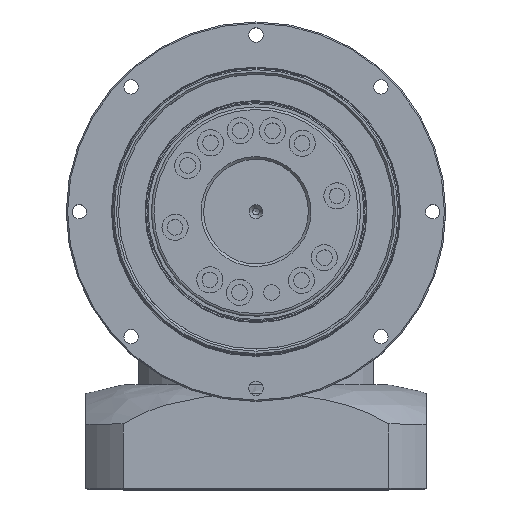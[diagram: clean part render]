
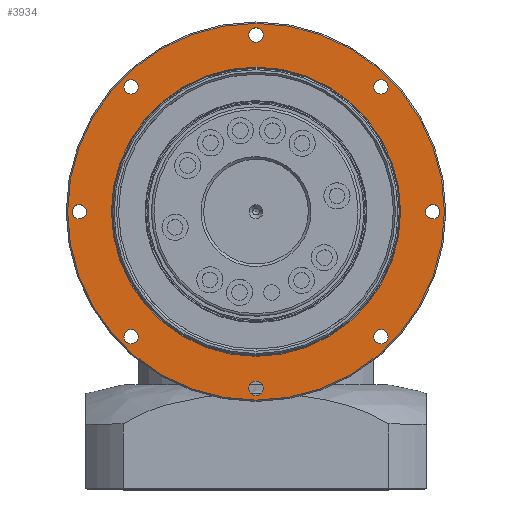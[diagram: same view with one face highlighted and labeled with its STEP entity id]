
A CAD part, top view. The second image highlights one B-rep face of the part: STEP entity #3934.
In plain terms, the highlighted planar face has unit normal (0, 0, 1).
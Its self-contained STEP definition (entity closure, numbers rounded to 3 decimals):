
#3139=FACE_BOUND('',#5709,.T.);
#3140=FACE_BOUND('',#5710,.T.);
#3141=FACE_BOUND('',#5711,.T.);
#3142=FACE_BOUND('',#5712,.T.);
#3143=FACE_BOUND('',#5713,.T.);
#3144=FACE_BOUND('',#5714,.T.);
#3145=FACE_BOUND('',#5715,.T.);
#3146=FACE_BOUND('',#5716,.T.);
#3147=FACE_BOUND('',#5717,.T.);
#3148=FACE_BOUND('',#5718,.T.);
#3934=ADVANCED_FACE('',(#3139,#3140,#3141,#3142,#3143,#3144,#3145,#3146,
#3147,#3148),#4249,.F.);
#4249=PLANE('',#15567);
#5709=EDGE_LOOP('',(#9243));
#5710=EDGE_LOOP('',(#9244));
#5711=EDGE_LOOP('',(#9245));
#5712=EDGE_LOOP('',(#9246));
#5713=EDGE_LOOP('',(#9247));
#5714=EDGE_LOOP('',(#9248));
#5715=EDGE_LOOP('',(#9249));
#5716=EDGE_LOOP('',(#9250));
#5717=EDGE_LOOP('',(#9251));
#5718=EDGE_LOOP('',(#9252));
#9243=ORIENTED_EDGE('',*,*,#12996,.F.);
#9244=ORIENTED_EDGE('',*,*,#12995,.F.);
#9245=ORIENTED_EDGE('',*,*,#12994,.F.);
#9246=ORIENTED_EDGE('',*,*,#12993,.F.);
#9247=ORIENTED_EDGE('',*,*,#12992,.F.);
#9248=ORIENTED_EDGE('',*,*,#12991,.F.);
#9249=ORIENTED_EDGE('',*,*,#12990,.F.);
#9250=ORIENTED_EDGE('',*,*,#12989,.F.);
#9251=ORIENTED_EDGE('',*,*,#12988,.F.);
#9252=ORIENTED_EDGE('',*,*,#12987,.F.);
#11095=VERTEX_POINT('',#31283);
#11096=VERTEX_POINT('',#31286);
#11097=VERTEX_POINT('',#31289);
#11098=VERTEX_POINT('',#31292);
#11099=VERTEX_POINT('',#31295);
#11100=VERTEX_POINT('',#31298);
#11101=VERTEX_POINT('',#31301);
#11102=VERTEX_POINT('',#31304);
#11103=VERTEX_POINT('',#31307);
#11104=VERTEX_POINT('',#31310);
#12987=EDGE_CURVE('',#11095,#11095,#14193,.T.);
#12988=EDGE_CURVE('',#11096,#11096,#14194,.T.);
#12989=EDGE_CURVE('',#11097,#11097,#14195,.T.);
#12990=EDGE_CURVE('',#11098,#11098,#14196,.T.);
#12991=EDGE_CURVE('',#11099,#11099,#14197,.T.);
#12992=EDGE_CURVE('',#11100,#11100,#14198,.T.);
#12993=EDGE_CURVE('',#11101,#11101,#14199,.T.);
#12994=EDGE_CURVE('',#11102,#11102,#14200,.T.);
#12995=EDGE_CURVE('',#11103,#11103,#14201,.T.);
#12996=EDGE_CURVE('',#11104,#11104,#14202,.T.);
#14193=CIRCLE('',#15547,72.);
#14194=CIRCLE('',#15549,55.25);
#14195=CIRCLE('',#15551,2.75);
#14196=CIRCLE('',#15553,2.75);
#14197=CIRCLE('',#15555,2.75);
#14198=CIRCLE('',#15557,2.75);
#14199=CIRCLE('',#15559,2.75);
#14200=CIRCLE('',#15561,2.75);
#14201=CIRCLE('',#15563,2.75);
#14202=CIRCLE('',#15565,2.75);
#15547=AXIS2_PLACEMENT_3D('',#31282,#18692,#18693);
#15549=AXIS2_PLACEMENT_3D('',#31285,#18696,#18697);
#15551=AXIS2_PLACEMENT_3D('',#31288,#18700,#18701);
#15553=AXIS2_PLACEMENT_3D('',#31291,#18704,#18705);
#15555=AXIS2_PLACEMENT_3D('',#31294,#18708,#18709);
#15557=AXIS2_PLACEMENT_3D('',#31297,#18712,#18713);
#15559=AXIS2_PLACEMENT_3D('',#31300,#18716,#18717);
#15561=AXIS2_PLACEMENT_3D('',#31303,#18720,#18721);
#15563=AXIS2_PLACEMENT_3D('',#31306,#18724,#18725);
#15565=AXIS2_PLACEMENT_3D('',#31309,#18728,#18729);
#15567=AXIS2_PLACEMENT_3D('',#31312,#18732,#18733);
#18692=DIRECTION('',(0.,0.,-1.));
#18693=DIRECTION('',(-1.,0.,0.));
#18696=DIRECTION('',(0.,0.,1.));
#18697=DIRECTION('',(0.,-1.,0.));
#18700=DIRECTION('',(0.,0.,1.));
#18701=DIRECTION('',(1.,0.,0.));
#18704=DIRECTION('',(0.,0.,1.));
#18705=DIRECTION('',(1.,0.,0.));
#18708=DIRECTION('',(0.,0.,1.));
#18709=DIRECTION('',(1.,0.,0.));
#18712=DIRECTION('',(0.,0.,1.));
#18713=DIRECTION('',(1.,0.,0.));
#18716=DIRECTION('',(0.,0.,1.));
#18717=DIRECTION('',(1.,0.,0.));
#18720=DIRECTION('',(0.,0.,1.));
#18721=DIRECTION('',(1.,0.,0.));
#18724=DIRECTION('',(0.,0.,1.));
#18725=DIRECTION('',(1.,0.,0.));
#18728=DIRECTION('',(0.,0.,1.));
#18729=DIRECTION('',(1.,0.,0.));
#18732=DIRECTION('',(0.,0.,-1.));
#18733=DIRECTION('',(-1.,0.,0.));
#31282=CARTESIAN_POINT('',(-22.687,65.828,25.005));
#31283=CARTESIAN_POINT('',(-94.687,65.828,25.005));
#31285=CARTESIAN_POINT('',(-22.687,65.828,25.005));
#31286=CARTESIAN_POINT('',(-22.687,10.578,25.005));
#31288=CARTESIAN_POINT('',(-22.687,133.328,25.005));
#31289=CARTESIAN_POINT('',(-19.937,133.328,25.005));
#31291=CARTESIAN_POINT('',(25.043,113.558,25.005));
#31292=CARTESIAN_POINT('',(27.793,113.558,25.005));
#31294=CARTESIAN_POINT('',(-70.417,113.558,25.005));
#31295=CARTESIAN_POINT('',(-67.667,113.558,25.005));
#31297=CARTESIAN_POINT('',(-90.187,65.828,25.005));
#31298=CARTESIAN_POINT('',(-87.437,65.828,25.005));
#31300=CARTESIAN_POINT('',(-70.417,18.098,25.005));
#31301=CARTESIAN_POINT('',(-67.667,18.098,25.005));
#31303=CARTESIAN_POINT('',(-22.687,-1.672,25.005));
#31304=CARTESIAN_POINT('',(-19.937,-1.672,25.005));
#31306=CARTESIAN_POINT('',(25.043,18.098,25.005));
#31307=CARTESIAN_POINT('',(27.793,18.098,25.005));
#31309=CARTESIAN_POINT('',(44.813,65.828,25.005));
#31310=CARTESIAN_POINT('',(47.563,65.828,25.005));
#31312=CARTESIAN_POINT('',(-22.687,121.078,25.005));
